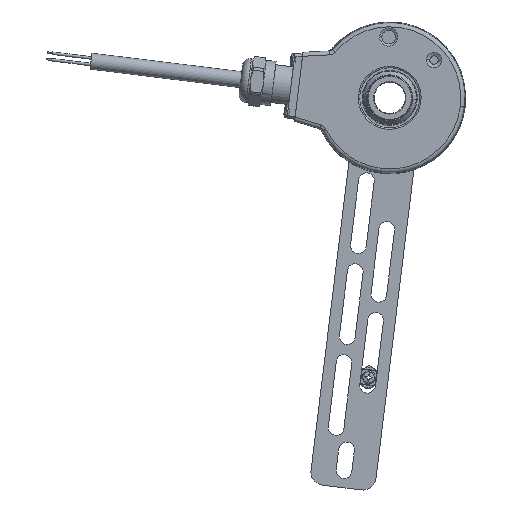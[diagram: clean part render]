
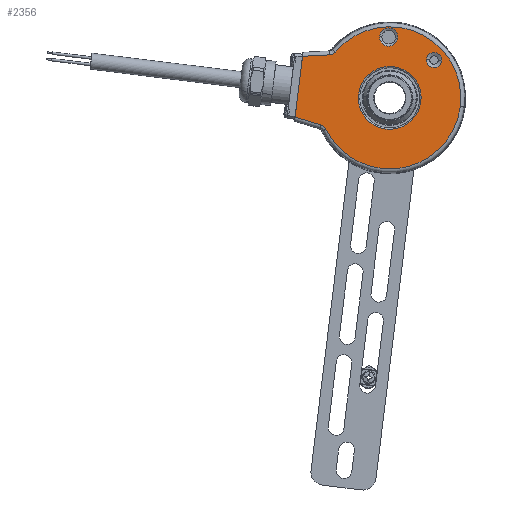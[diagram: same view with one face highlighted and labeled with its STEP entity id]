
A CAD part, left-side view. The second image highlights one B-rep face of the part: STEP entity #2356.
In plain terms, the highlighted planar face has unit normal (-1, 0, 0).
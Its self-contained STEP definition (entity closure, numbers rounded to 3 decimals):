
#79 = EDGE_CURVE ( 'NONE', #80, #81, #13151, .T. ) ;
#80 = VERTEX_POINT ( 'NONE', #13168 ) ;
#81 = VERTEX_POINT ( 'NONE', #13139 ) ;
#133 = VERTEX_POINT ( 'NONE', #13353 ) ;
#135 = EDGE_CURVE ( 'NONE', #136, #133, #13314, .T. ) ;
#136 = VERTEX_POINT ( 'NONE', #13345 ) ;
#165 = EDGE_CURVE ( 'NONE', #167, #174, #13399, .T. ) ;
#167 = VERTEX_POINT ( 'NONE', #13412 ) ;
#174 = VERTEX_POINT ( 'NONE', #13404 ) ;
#194 = EDGE_CURVE ( 'NONE', #195, #220, #13522, .T. ) ;
#195 = VERTEX_POINT ( 'NONE', #13508 ) ;
#220 = VERTEX_POINT ( 'NONE', #12874 ) ;
#258 = VERTEX_POINT ( 'NONE', #1981 ) ;
#287 = VERTEX_POINT ( 'NONE', #1998 ) ;
#1981 = CARTESIAN_POINT ( 'NONE',  ( -19., 22.914, 16.45 ) ) ;
#1998 = CARTESIAN_POINT ( 'NONE',  ( -19., 33.31, 15.905 ) ) ;
#2257 = EDGE_CURVE ( 'NONE', #2531, #80, #18019, .T. ) ;
#2259 = EDGE_CURVE ( 'NONE', #258, #287, #18020, .T. ) ;
#2341 = ORIENTED_EDGE ( 'NONE', *, *, #2355, .T. ) ;
#2342 = EDGE_CURVE ( 'NONE', #174, #167, #18426, .T. ) ;
#2343 = EDGE_LOOP ( 'NONE', ( #2441, #2448 ) ) ;
#2344 = ORIENTED_EDGE ( 'NONE', *, *, #2373, .F. ) ;
#2345 = ORIENTED_EDGE ( 'NONE', *, *, #2259, .T. ) ;
#2346 = ORIENTED_EDGE ( 'NONE', *, *, #2359, .F. ) ;
#2347 = EDGE_LOOP ( 'NONE', ( #2467, #2468 ) ) ;
#2351 = EDGE_LOOP ( 'NONE', ( #2344, #2345, #2346, #2442, #2443, #2444, #2445 ) ) ;
#2355 = EDGE_CURVE ( 'NONE', #133, #136, #18469, .T. ) ;
#2356 = ADVANCED_FACE ( 'NONE', ( #18458, #18457, #18456, #18455 ), #18496, .F. ) ;
#2359 = EDGE_CURVE ( 'NONE', #2360, #287, #18491, .T. ) ;
#2360 = VERTEX_POINT ( 'NONE', #18487 ) ;
#2373 = EDGE_CURVE ( 'NONE', #258, #81, #18513, .T. ) ;
#2403 = EDGE_CURVE ( 'NONE', #220, #195, #18589, .T. ) ;
#2414 = VERTEX_POINT ( 'NONE', #18652 ) ;
#2416 = EDGE_CURVE ( 'NONE', #2360, #2414, #18650, .T. ) ;
#2441 = ORIENTED_EDGE ( 'NONE', *, *, #165, .T. ) ;
#2442 = ORIENTED_EDGE ( 'NONE', *, *, #2416, .T. ) ;
#2443 = ORIENTED_EDGE ( 'NONE', *, *, #2534, .F. ) ;
#2444 = ORIENTED_EDGE ( 'NONE', *, *, #2257, .T. ) ;
#2445 = ORIENTED_EDGE ( 'NONE', *, *, #79, .T. ) ;
#2448 = ORIENTED_EDGE ( 'NONE', *, *, #2342, .T. ) ;
#2467 = ORIENTED_EDGE ( 'NONE', *, *, #194, .T. ) ;
#2468 = ORIENTED_EDGE ( 'NONE', *, *, #2403, .T. ) ;
#2494 = EDGE_LOOP ( 'NONE', ( #2495, #2341 ) ) ;
#2495 = ORIENTED_EDGE ( 'NONE', *, *, #135, .T. ) ;
#2531 = VERTEX_POINT ( 'NONE', #19158 ) ;
#2534 = EDGE_CURVE ( 'NONE', #2531, #2414, #19155, .T. ) ;
#12874 = CARTESIAN_POINT ( 'NONE',  ( -19., 11.911, 1.462 ) ) ;
#13139 = CARTESIAN_POINT ( 'NONE',  ( -19., 20.777, 17.512 ) ) ;
#13151 = CIRCLE ( 'NONE', #13173, 27.173 ) ;
#13168 = CARTESIAN_POINT ( 'NONE',  ( -19., -26.97, -3.312 ) ) ;
#13169 = DIRECTION ( 'NONE',  ( 0., -0.993, -0.122 ) ) ;
#13170 = DIRECTION ( 'NONE',  ( -1., 0., 0. ) ) ;
#13172 = CARTESIAN_POINT ( 'NONE',  ( -19., 0., 0. ) ) ;
#13173 = AXIS2_PLACEMENT_3D ( 'NONE', #13172, #13170, #13169 ) ;
#13312 = DIRECTION ( 'NONE',  ( 1., 0., 0. ) ) ;
#13313 = AXIS2_PLACEMENT_3D ( 'NONE', #13357, #13312, #13346 ) ;
#13314 = CIRCLE ( 'NONE', #13313, 3.466 ) ;
#13345 = CARTESIAN_POINT ( 'NONE',  ( -19., 3.846, 23.669 ) ) ;
#13346 = DIRECTION ( 'NONE',  ( 0., -0.993, -0.122 ) ) ;
#13353 = CARTESIAN_POINT ( 'NONE',  ( -19., -3.034, 22.824 ) ) ;
#13357 = CARTESIAN_POINT ( 'NONE',  ( -19., 0.406, 23.246 ) ) ;
#13394 = DIRECTION ( 'NONE',  ( 0., -0.993, -0.122 ) ) ;
#13395 = DIRECTION ( 'NONE',  ( 1., 0., 0. ) ) ;
#13396 = CARTESIAN_POINT ( 'NONE',  ( -19., -16.919, 14.45 ) ) ;
#13397 = AXIS2_PLACEMENT_3D ( 'NONE', #13396, #13395, #13394 ) ;
#13399 = CIRCLE ( 'NONE', #13397, 2.899 ) ;
#13404 = CARTESIAN_POINT ( 'NONE',  ( -19., -19.796, 14.097 ) ) ;
#13412 = CARTESIAN_POINT ( 'NONE',  ( -19., -14.042, 14.804 ) ) ;
#13499 = DIRECTION ( 'NONE',  ( 0., -0.993, -0.122 ) ) ;
#13500 = DIRECTION ( 'NONE',  ( 1., 0., 0. ) ) ;
#13501 = CARTESIAN_POINT ( 'NONE',  ( -19., 0., 0. ) ) ;
#13502 = AXIS2_PLACEMENT_3D ( 'NONE', #13501, #13500, #13499 ) ;
#13508 = CARTESIAN_POINT ( 'NONE',  ( -19., -11.911, -1.462 ) ) ;
#13522 = CIRCLE ( 'NONE', #13502, 12. ) ;
#18012 = DIRECTION ( 'NONE',  ( 0., 0.999, -0.052 ) ) ;
#18013 = VECTOR ( 'NONE', #18012, 1000. ) ;
#18014 = CARTESIAN_POINT ( 'NONE',  ( -19., 33.046, 15.919 ) ) ;
#18015 = DIRECTION ( 'NONE',  ( 0., -0.993, -0.122 ) ) ;
#18016 = DIRECTION ( 'NONE',  ( -1., 0., 0. ) ) ;
#18017 = CARTESIAN_POINT ( 'NONE',  ( -19., 0., 0. ) ) ;
#18018 = AXIS2_PLACEMENT_3D ( 'NONE', #18017, #18016, #18015 ) ;
#18019 = CIRCLE ( 'NONE', #18018, 27.173 ) ;
#18020 = LINE ( 'NONE', #18014, #18013 ) ;
#18422 = DIRECTION ( 'NONE',  ( 0., -0.993, -0.122 ) ) ;
#18423 = DIRECTION ( 'NONE',  ( 1., 0., 0. ) ) ;
#18424 = CARTESIAN_POINT ( 'NONE',  ( -19., -16.919, 14.45 ) ) ;
#18425 = AXIS2_PLACEMENT_3D ( 'NONE', #18424, #18423, #18422 ) ;
#18426 = CIRCLE ( 'NONE', #18425, 2.899 ) ;
#18455 = FACE_OUTER_BOUND ( 'NONE', #2351, .T. ) ;
#18456 = FACE_BOUND ( 'NONE', #2347, .T. ) ;
#18457 = FACE_BOUND ( 'NONE', #2494, .T. ) ;
#18458 = FACE_BOUND ( 'NONE', #2343, .T. ) ;
#18459 = DIRECTION ( 'NONE',  ( 0., -0.993, -0.122 ) ) ;
#18460 = DIRECTION ( 'NONE',  ( 1., 0., 0. ) ) ;
#18461 = CARTESIAN_POINT ( 'NONE',  ( -19., 0.406, 23.246 ) ) ;
#18462 = AXIS2_PLACEMENT_3D ( 'NONE', #18461, #18460, #18459 ) ;
#18469 = CIRCLE ( 'NONE', #18462, 3.466 ) ;
#18487 = CARTESIAN_POINT ( 'NONE',  ( -19., 36.168, -7.374 ) ) ;
#18488 = DIRECTION ( 'NONE',  ( 0., -0.122, 0.993 ) ) ;
#18489 = VECTOR ( 'NONE', #18488, 1000. ) ;
#18490 = CARTESIAN_POINT ( 'NONE',  ( -19., 36.354, -8.886 ) ) ;
#18491 = LINE ( 'NONE', #18490, #18489 ) ;
#18492 = DIRECTION ( 'NONE',  ( 0., -0.993, -0.122 ) ) ;
#18493 = DIRECTION ( 'NONE',  ( 1., 0., 0. ) ) ;
#18494 = CARTESIAN_POINT ( 'NONE',  ( -19., 0., 0. ) ) ;
#18495 = AXIS2_PLACEMENT_3D ( 'NONE', #18494, #18493, #18492 ) ;
#18496 = PLANE ( 'NONE',  #18495 ) ;
#18497 = CARTESIAN_POINT ( 'NONE',  ( -19., 21.056, 17.213 ) ) ;
#18498 = CARTESIAN_POINT ( 'NONE',  ( -19., 21.376, 16.962 ) ) ;
#18499 = CARTESIAN_POINT ( 'NONE',  ( -19., 21.552, 16.851 ) ) ;
#18500 = CARTESIAN_POINT ( 'NONE',  ( -19., 21.917, 16.669 ) ) ;
#18501 = CARTESIAN_POINT ( 'NONE',  ( -19., 22.108, 16.597 ) ) ;
#18502 = CARTESIAN_POINT ( 'NONE',  ( -19., 22.503, 16.493 ) ) ;
#18503 = CARTESIAN_POINT ( 'NONE',  ( -19., 22.708, 16.461 ) ) ;
#18504 = CARTESIAN_POINT ( 'NONE',  ( -19., 22.914, 16.45 ) ) ;
#18513 = B_SPLINE_CURVE_WITH_KNOTS ( 'NONE', 3,
 ( #18504, #18503, #18502, #18501, #18500, #18499, #18498, #18497, #18552, #18551 ),
 .UNSPECIFIED., .F., .F.,
 ( 4, 2, 2, 2, 4 ),
 ( 0., 0.001, 0.001, 0.002, 0.002 ),
 .UNSPECIFIED. ) ;
#18551 = CARTESIAN_POINT ( 'NONE',  ( -19., 20.777, 17.512 ) ) ;
#18552 = CARTESIAN_POINT ( 'NONE',  ( -19., 20.91, 17.355 ) ) ;
#18586 = DIRECTION ( 'NONE',  ( 0., -0.993, -0.122 ) ) ;
#18587 = DIRECTION ( 'NONE',  ( 1., 0., 0. ) ) ;
#18588 = AXIS2_PLACEMENT_3D ( 'NONE', #18596, #18587, #18586 ) ;
#18589 = CIRCLE ( 'NONE', #18588, 12. ) ;
#18596 = CARTESIAN_POINT ( 'NONE',  ( -19., 0., 0. ) ) ;
#18647 = DIRECTION ( 'NONE',  ( 0., -0.956, -0.292 ) ) ;
#18648 = VECTOR ( 'NONE', #18647, 1000. ) ;
#18649 = CARTESIAN_POINT ( 'NONE',  ( -19., 25.556, -10.618 ) ) ;
#18650 = LINE ( 'NONE', #18649, #18648 ) ;
#18652 = CARTESIAN_POINT ( 'NONE',  ( -19., 26.213, -10.418 ) ) ;
#18923 = CARTESIAN_POINT ( 'NONE',  ( -19., 24.989, -11.135 ) ) ;
#18924 = CARTESIAN_POINT ( 'NONE',  ( -19., 24.848, -11.282 ) ) ;
#19145 = CARTESIAN_POINT ( 'NONE',  ( -19., 24.597, -11.605 ) ) ;
#19146 = CARTESIAN_POINT ( 'NONE',  ( -19., 24.487, -11.781 ) ) ;
#19147 = CARTESIAN_POINT ( 'NONE',  ( -19., 24.396, -11.966 ) ) ;
#19155 = B_SPLINE_CURVE_WITH_KNOTS ( 'NONE', 3,
 ( #19147, #19146, #19145, #18924, #18923, #19679, #19678, #19670, #19668, #19674 ),
 .UNSPECIFIED., .F., .F.,
 ( 4, 2, 2, 2, 4 ),
 ( 0., 0.001, 0.001, 0.002, 0.002 ),
 .UNSPECIFIED. ) ;
#19158 = CARTESIAN_POINT ( 'NONE',  ( -19., 24.396, -11.966 ) ) ;
#19668 = CARTESIAN_POINT ( 'NONE',  ( -19., 26.016, -10.478 ) ) ;
#19670 = CARTESIAN_POINT ( 'NONE',  ( -19., 25.828, -10.557 ) ) ;
#19674 = CARTESIAN_POINT ( 'NONE',  ( -19., 26.213, -10.418 ) ) ;
#19678 = CARTESIAN_POINT ( 'NONE',  ( -19., 25.471, -10.753 ) ) ;
#19679 = CARTESIAN_POINT ( 'NONE',  ( -19., 25.3, -10.87 ) ) ;
